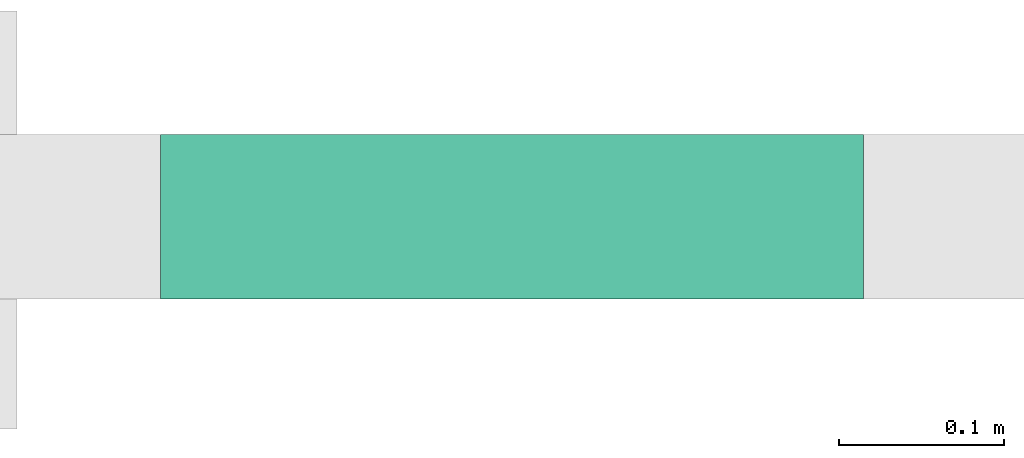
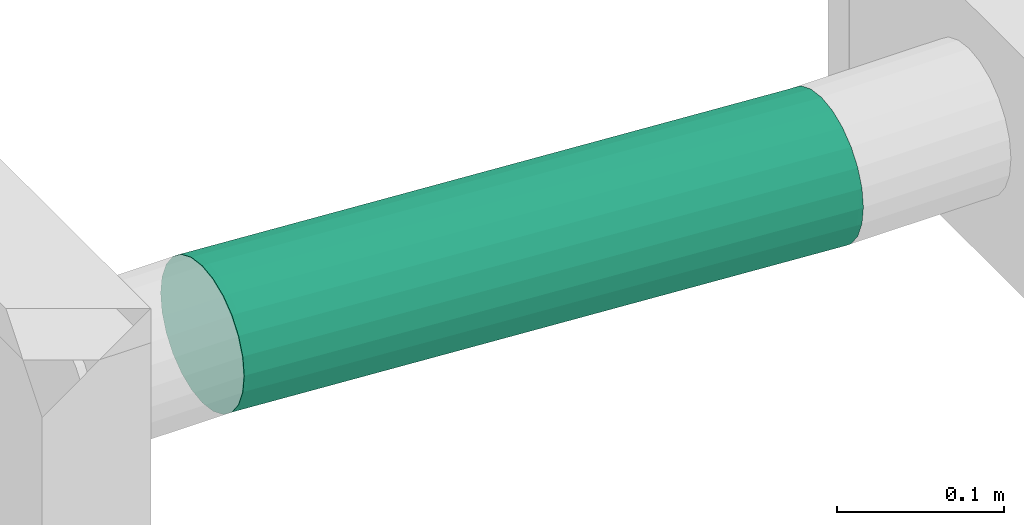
# One storey, part 56 of 60: 1 flow segment.
"""IFC2X3 building model written with IfcOpenShell, lengths in millimetres."""

from ifc_helpers import new_model, entity, si_unit, converted_unit, derived_unit, direction, frame, origin, place, context, subcontext, project, spatial, faceted_brep, type_object, element, save


model = new_model("IFC2X3")

# Units and contexts
model_context = context("Model", 3, precision=0.01, world=origin(), true_north=direction((6.123233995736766e-17, 1.0)))
body_context = subcontext(model_context, "Body", "Model", "MODEL_VIEW")
ifc_project = project(units=[si_unit("LENGTHUNIT", "METRE", prefix="MILLI"), converted_unit("PLANEANGLEUNIT", "DEGREE", entity("IfcPlaneAngleMeasure", 0.017453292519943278), si_unit("PLANEANGLEUNIT", "RADIAN"), dimensions=[0, 0, 0, 0, 0, 0, 0]), si_unit("AREAUNIT", "SQUARE_METRE"), derived_unit("THERMALTRANSMITTANCEUNIT", [(si_unit("MASSUNIT", "GRAM", prefix="KILO"), 1), (si_unit("THERMODYNAMICTEMPERATUREUNIT", "KELVIN"), -1), (si_unit("TIMEUNIT", "SECOND"), -3)])], contexts=[model_context])

# Site, building, storey
site_placement = place(None, origin())
site = spatial("IfcSite", under=ifc_project, at=site_placement, Name="Default", CompositionType="ELEMENT")
building_placement = place(site_placement, origin())
building = spatial("IfcBuilding", under=site, at=building_placement, Name="Praça Pedro II, 1301 - Centro (Sul), Teresina - PI, 64001-100", CompositionType="ELEMENT")
storey_placement = place(building_placement, frame((0.0, 0.0, 6040.0)))
storey = spatial("IfcBuildingStorey", under=building, at=storey_placement, Name="2PAV", CompositionType="ELEMENT", Elevation=6040.0)

# Flow segment
duct_segment_type = type_object("IfcDuctSegmentType", Name="Duto flexível redondo:Flexível - Redondo", PredefinedType="FLEXIBLESEGMENT")
flow_segment_placement = place(storey_placement, frame((9563.791270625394, -52835.10593531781, 2602.96158428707)))
element("IfcFlowSegment", 1, at=flow_segment_placement, inside=storey, type_object=duct_segment_type, Name="Duto flexível redondo:Flexível - Redondo", ObjectType="Duto flexível redondo:Flexível - Redondo", context=body_context, shape_type="Brep", body=[
    faceted_brep([(0.06263759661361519, 8.29400204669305, 53.247087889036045), (0.06263759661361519, 3.298980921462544, 65.30613563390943), (0.06263759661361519, 1.5952722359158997, 78.24708788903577), (0.06263759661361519, 3.298980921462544, 91.18804014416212), (0.06263759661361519, 8.29400204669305, 103.2470878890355), (0.06263759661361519, 16.239933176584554, 113.60242694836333), (0.06263759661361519, 26.595272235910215, 121.54835807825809), (0.06263759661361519, 38.654319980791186, 126.5433792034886), (0.06263759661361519, 51.59527223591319, 128.24708788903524), (0.06263759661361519, 64.53622449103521, 126.54337920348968), (0.06263759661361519, 76.59527223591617, 121.54835807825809), (0.06263759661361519, 86.95061129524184, 113.60242694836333), (0.06263759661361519, 94.89654242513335, 103.2470878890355), (0.06263759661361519, 99.89156355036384, 91.18804014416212), (0.06263759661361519, 101.59527223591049, 78.24708788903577), (0.06263759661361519, 99.89156355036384, 65.30613563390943), (0.06263759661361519, 94.89654242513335, 53.247087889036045), (0.06263759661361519, 86.95061129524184, 42.89174882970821), (0.06263759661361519, 76.59527223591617, 34.94581769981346), (0.06263759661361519, 64.53622449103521, 29.950796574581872), (0.06263759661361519, 51.59527223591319, 28.24708788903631), (0.06263759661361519, 38.654319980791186, 29.950796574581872), (0.06263759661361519, 26.595272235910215, 34.94581769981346), (0.06263759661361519, 16.239933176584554, 42.89174882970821), (2.767605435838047, 99.89156355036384, 65.30613563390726), (2.3861271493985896, 94.89654242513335, 53.24708788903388), (3.1769820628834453, 101.59527223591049, 78.24708788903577), (2.058544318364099, 86.95061129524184, 42.8917488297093), (1.6491676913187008, 64.53622449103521, 29.950796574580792), (1.5952722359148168, 51.59527223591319, 28.24708788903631), (1.8071811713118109, 76.59527223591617, 34.94581769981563), (1.8071811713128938, 26.595272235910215, 34.94581769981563), (2.058544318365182, 16.239933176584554, 42.8917488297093), (1.6491676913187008, 38.654319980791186, 29.950796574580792), (2.767605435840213, 3.298980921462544, 65.30613563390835), (3.176982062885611, 1.5952722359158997, 78.24708788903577), (2.3861271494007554, 8.29400204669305, 53.24708788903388), (3.5863586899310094, 3.298980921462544, 91.18804014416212), (3.967836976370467, 8.29400204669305, 103.24708788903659), (4.295419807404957, 16.239933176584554, 113.60242694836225), (4.546782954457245, 26.595272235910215, 121.54835807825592), (4.704796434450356, 38.654319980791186, 126.54337920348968), (4.75869188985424, 51.59527223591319, 128.24708788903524), (4.704796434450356, 64.53622449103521, 126.54337920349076), (4.546782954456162, 76.59527223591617, 121.54835807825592), (4.295419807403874, 86.95061129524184, 113.60242694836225), (3.967836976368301, 94.89654242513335, 103.24708788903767), (3.5863586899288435, 99.89156355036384, 91.18804014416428), (427.1198522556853, 38.65431998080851, 3.298980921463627), (427.1198522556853, 51.59527223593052, 1.5952722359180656), (427.1198522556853, 64.53622449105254, 3.298980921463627), (427.1198522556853, 76.5952722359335, 8.294002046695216), (427.1198522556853, 86.95061129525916, 16.239933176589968), (427.1198522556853, 94.89654242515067, 26.595272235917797), (427.1198522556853, 99.89156355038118, 38.654319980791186), (427.1198522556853, 101.59527223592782, 51.59527223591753), (427.1198522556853, 99.89156355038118, 64.53622449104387), (427.1198522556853, 94.89654242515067, 76.59527223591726), (427.1198522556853, 86.95061129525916, 86.95061129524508), (427.1198522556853, 76.5952722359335, 94.89654242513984), (427.1198522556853, 64.53622449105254, 99.89156355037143), (427.1198522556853, 51.59527223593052, 101.595272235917), (427.1198522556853, 38.65431998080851, 99.89156355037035), (427.1198522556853, 26.595272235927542, 94.89654242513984), (427.1198522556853, 16.23993317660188, 86.95061129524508), (427.1198522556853, 8.294002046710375, 76.59527223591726), (427.1198522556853, 3.29898092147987, 64.53622449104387), (427.1198522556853, 1.5952722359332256, 51.59527223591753), (427.1198522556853, 3.29898092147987, 38.654319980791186), (427.1198522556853, 8.294002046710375, 26.595272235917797), (427.1198522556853, 16.23993317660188, 16.239933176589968), (427.1198522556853, 26.595272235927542, 8.294002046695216), (212.77331019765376, 99.89156355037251, 52.006102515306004), (423.5961311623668, 99.89156355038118, 38.6543199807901), (423.2146528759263, 94.89654242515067, 26.59527223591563), (212.01111636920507, 94.896542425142, 39.97116615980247), (213.59124492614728, 101.59527223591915, 64.92118006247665), (424.0055077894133, 101.59527223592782, 51.59527223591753), (422.8870700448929, 86.95061129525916, 16.23993317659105), (211.35660569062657, 86.9506112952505, 29.636532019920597), (210.85438198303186, 76.59527223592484, 21.706488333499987), (422.63570689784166, 76.5952722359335, 8.294002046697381), (422.4776934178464, 64.53622449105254, 3.298980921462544), (210.538670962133, 64.53622449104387, 16.721454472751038), (422.4237979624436, 51.59527223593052, 1.5952722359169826), (210.43098781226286, 51.59527223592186, 15.02115225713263), (422.47769341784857, 38.65431998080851, 3.298980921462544), (210.538670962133, 38.65431998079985, 16.721454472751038), (422.63570689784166, 26.595272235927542, 8.294002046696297), (210.85438198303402, 26.59527223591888, 21.706488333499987), (211.35660569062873, 16.23993317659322, 29.636532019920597), (422.8870700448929, 16.23993317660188, 16.23993317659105), (212.01111636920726, 8.294002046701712, 39.97116615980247), (423.21465287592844, 8.294002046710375, 26.59527223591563), (423.596131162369, 3.29898092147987, 38.6543199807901), (212.77331019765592, 3.2989809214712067, 52.006102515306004), (424.0055077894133, 1.5952722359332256, 51.59527223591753), (213.59124492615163, 1.5952722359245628, 64.92118006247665), (424.4148844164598, 3.29898092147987, 64.53622449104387), (214.40917965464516, 3.2989809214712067, 77.83625760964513), (424.79636270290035, 8.294002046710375, 76.59527223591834), (215.17137348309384, 8.294002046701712, 89.87119396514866), (215.82588416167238, 16.23993317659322, 100.20582810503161), (425.12394553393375, 16.23993317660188, 86.95061129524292), (216.32810786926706, 26.59527223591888, 108.13587179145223), (425.375308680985, 26.595272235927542, 94.89654242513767), (425.5333221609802, 38.65431998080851, 99.89156355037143), (216.6438188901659, 38.65431998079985, 113.12090565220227), (425.58721761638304, 51.59527223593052, 101.595272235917), (216.75150204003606, 51.59527223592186, 114.82120786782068), (425.53332216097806, 64.53622449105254, 99.89156355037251), (216.6438188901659, 64.53622449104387, 113.12090565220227), (425.375308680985, 76.5952722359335, 94.89654242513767), (216.3281078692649, 76.59527223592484, 108.13587179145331), (425.12394553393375, 86.95061129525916, 86.95061129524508), (215.8258841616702, 86.9506112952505, 100.20582810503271), (215.17137348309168, 94.896542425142, 89.87119396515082), (424.7963627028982, 94.89654242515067, 76.59527223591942), (424.41488441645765, 99.89156355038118, 64.53622449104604), (214.409179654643, 99.89156355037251, 77.83625760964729)], [[[0, 1, 2, 3, 4, 5, 6, 7, 8, 9, 10, 11, 12, 13, 14, 15, 16, 17, 18, 19, 20, 21, 22, 23]], [[24, 25, 16, 15]], [[26, 24, 15, 14]], [[16, 25, 27, 17]], [[28, 29, 20, 19]], [[30, 28, 19, 18]], [[17, 27, 30, 18]], [[22, 31, 32, 23]], [[33, 31, 22, 21]], [[20, 29, 33, 21]], [[34, 35, 2, 1]], [[36, 34, 1, 0]], [[32, 36, 0, 23]], [[4, 3, 37, 38]], [[5, 4, 38, 39]], [[2, 35, 37, 3]], [[7, 6, 40, 41]], [[8, 7, 41, 42]], [[39, 40, 6, 5]], [[8, 42, 43, 9]], [[9, 43, 44, 10]], [[10, 44, 45, 11]], [[12, 46, 47, 13]], [[13, 47, 26, 14]], [[11, 45, 46, 12]], [[48, 49, 50, 51, 52, 53, 54, 55, 56, 57, 58, 59, 60, 61, 62, 63, 64, 65, 66, 67, 68, 69, 70, 71]], [[72, 73, 74, 75, 25, 24]], [[76, 77, 73, 72, 24, 26]], [[27, 25, 75, 74, 78, 79]], [[28, 30, 80, 81, 82, 83]], [[29, 28, 83, 82, 84, 85]], [[79, 78, 81, 80, 30, 27]], [[29, 85, 84, 86, 87, 33]], [[33, 87, 86, 88, 89, 31]], [[90, 32, 31, 89, 88, 91]], [[36, 92, 93, 94, 95, 34]], [[34, 95, 94, 96, 97, 35]], [[92, 36, 32, 90, 91, 93]], [[35, 97, 96, 98, 99, 37]], [[37, 99, 98, 100, 101, 38]], [[102, 39, 38, 101, 100, 103]], [[40, 104, 105, 106, 107, 41]], [[41, 107, 106, 108, 109, 42]], [[104, 40, 39, 102, 103, 105]], [[43, 42, 109, 108, 110, 111]], [[44, 43, 111, 110, 112, 113]], [[113, 112, 114, 115, 45, 44]], [[47, 46, 116, 117, 118, 119]], [[26, 47, 119, 118, 77, 76]], [[115, 114, 117, 116, 46, 45]], [[77, 55, 54, 73]], [[73, 54, 53, 74]], [[74, 53, 52, 78]], [[81, 51, 50, 82]], [[82, 50, 49, 84]], [[78, 52, 51, 81]], [[86, 84, 49, 48]], [[88, 86, 48, 71]], [[91, 88, 71, 70]], [[94, 93, 69, 68]], [[96, 94, 68, 67]], [[70, 69, 93, 91]], [[98, 96, 67, 66]], [[100, 98, 66, 65]], [[103, 100, 65, 64]], [[106, 105, 63, 62]], [[108, 106, 62, 61]], [[103, 64, 63, 105]], [[108, 61, 60, 110]], [[110, 60, 59, 112]], [[112, 59, 58, 114]], [[117, 57, 56, 118]], [[118, 56, 55, 77]], [[117, 114, 58, 57]]]),
])

save(model, "model.ifc")
